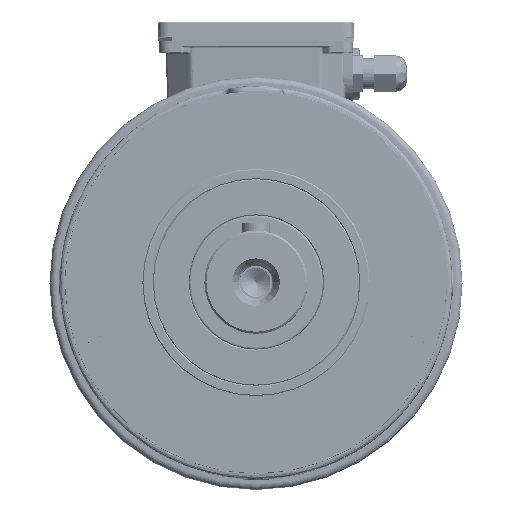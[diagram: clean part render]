
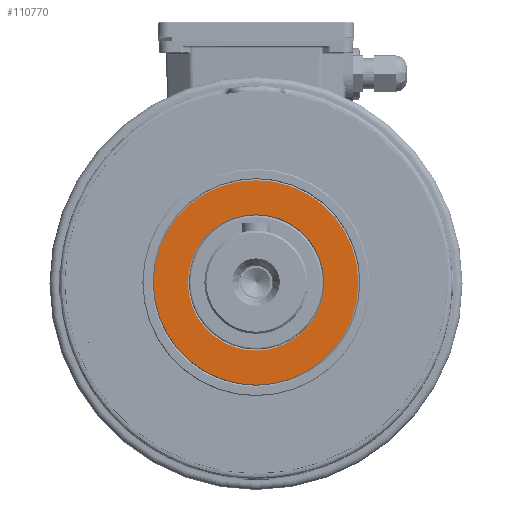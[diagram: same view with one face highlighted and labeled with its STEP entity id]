
A CAD part, top view. The second image highlights one B-rep face of the part: STEP entity #110770.
In plain terms, the highlighted planar face has unit normal (0, 0, 1) as drawn and (0, 0, -1) by its records, which use the part's own axes.
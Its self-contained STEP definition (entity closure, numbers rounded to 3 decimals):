
#36752 = ORIENTED_EDGE ( 'NONE', *, *, #55316, .F. ) ;
#36944 = ORIENTED_EDGE ( 'NONE', *, *, #55299, .F. ) ;
#36953 = ORIENTED_EDGE ( 'NONE', *, *, #55412, .F. ) ;
#37029 = ORIENTED_EDGE ( 'NONE', *, *, #55404, .F. ) ;
#55299 = EDGE_CURVE ( 'NONE', #138969, #138865, #94761, .T. ) ;
#55316 = EDGE_CURVE ( 'NONE', #139205, #134547, #94823, .T. ) ;
#55404 = EDGE_CURVE ( 'NONE', #138865, #138969, #94917, .T. ) ;
#55412 = EDGE_CURVE ( 'NONE', #134547, #139205, #94895, .T. ) ;
#77557 = DIRECTION ( 'NONE',  ( -1., 0., 0. ) ) ;
#77603 = DIRECTION ( 'NONE',  ( 0., 0., -1. ) ) ;
#77754 = CARTESIAN_POINT ( 'NONE',  ( 0., 0., 0. ) ) ;
#77765 = DIRECTION ( 'NONE',  ( 1., 0., 0. ) ) ;
#77792 = CARTESIAN_POINT ( 'NONE',  ( 0., 0., 0. ) ) ;
#77824 = DIRECTION ( 'NONE',  ( 0., 0., 1. ) ) ;
#77845 = DIRECTION ( 'NONE',  ( -1., 0., 0. ) ) ;
#77918 = DIRECTION ( 'NONE',  ( 0., 0., -1. ) ) ;
#78196 = CARTESIAN_POINT ( 'NONE',  ( 0., 0., 0. ) ) ;
#78225 = DIRECTION ( 'NONE',  ( 1., 0., 0. ) ) ;
#78231 = DIRECTION ( 'NONE',  ( 0., 0., 1. ) ) ;
#78487 = CARTESIAN_POINT ( 'NONE',  ( 0., 0., 0. ) ) ;
#89070 = EDGE_LOOP ( 'NONE', ( #36944, #37029 ) ) ;
#89161 = EDGE_LOOP ( 'NONE', ( #36752, #36953 ) ) ;
#94761 = CIRCLE ( 'NONE', #221581, 49.5 ) ;
#94823 = CIRCLE ( 'NONE', #221490, 33. ) ;
#94895 = CIRCLE ( 'NONE', #221478, 33. ) ;
#94917 = CIRCLE ( 'NONE', #221627, 49.5 ) ;
#110770 = ADVANCED_FACE ( 'NONE', ( #210510, #210613 ), #208132, .F. ) ;
#134547 = VERTEX_POINT ( 'NONE', #186797 ) ;
#138865 = VERTEX_POINT ( 'NONE', #185277 ) ;
#138969 = VERTEX_POINT ( 'NONE', #185451 ) ;
#139205 = VERTEX_POINT ( 'NONE', #185571 ) ;
#166101 = AXIS2_PLACEMENT_3D ( 'NONE', #208148, #208134, #208149 ) ;
#185277 = CARTESIAN_POINT ( 'NONE',  ( -49.5, 0., 0. ) ) ;
#185451 = CARTESIAN_POINT ( 'NONE',  ( 49.5, 0., 0. ) ) ;
#185571 = CARTESIAN_POINT ( 'NONE',  ( -33., 0., 0. ) ) ;
#186797 = CARTESIAN_POINT ( 'NONE',  ( 33., 0., 0. ) ) ;
#208132 = PLANE ( 'NONE',  #166101 ) ;
#208134 = DIRECTION ( 'NONE',  ( 0., 0., 1. ) ) ;
#208148 = CARTESIAN_POINT ( 'NONE',  ( -33., 0., 0. ) ) ;
#208149 = DIRECTION ( 'NONE',  ( 0., -1., 0. ) ) ;
#210510 = FACE_BOUND ( 'NONE', #89161, .T. ) ;
#210613 = FACE_OUTER_BOUND ( 'NONE', #89070, .T. ) ;
#221478 = AXIS2_PLACEMENT_3D ( 'NONE', #78487, #77603, #77557 ) ;
#221490 = AXIS2_PLACEMENT_3D ( 'NONE', #77792, #77918, #77845 ) ;
#221581 = AXIS2_PLACEMENT_3D ( 'NONE', #77754, #77824, #77765 ) ;
#221627 = AXIS2_PLACEMENT_3D ( 'NONE', #78196, #78231, #78225 ) ;
